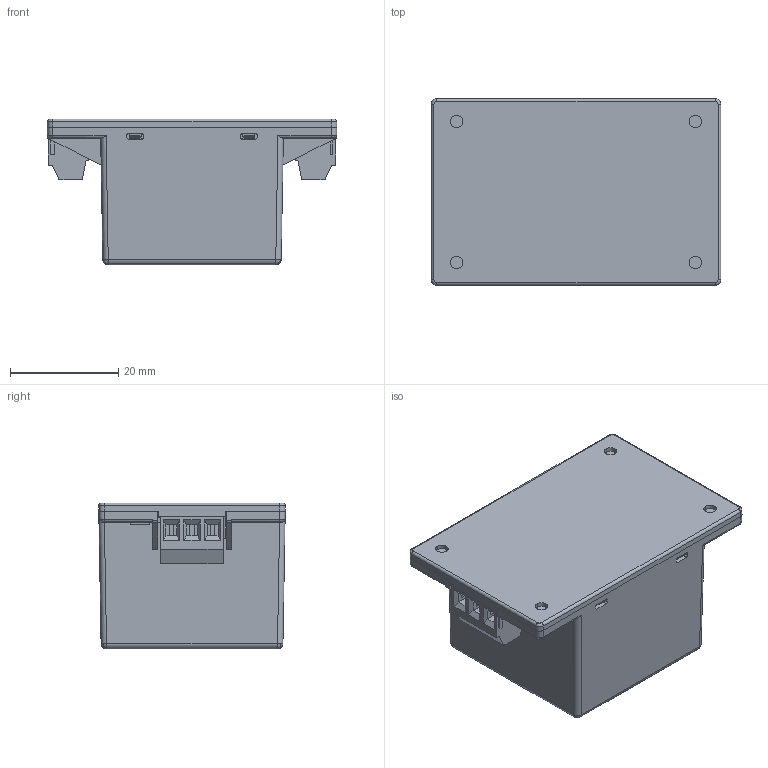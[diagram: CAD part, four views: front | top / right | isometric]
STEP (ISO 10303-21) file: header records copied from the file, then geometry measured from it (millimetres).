
FILE_DESCRIPTION (( 'STEP AP214' ), '1' );
FILE_NAME ('DTE06.STEP', '2020-03-19T13:09:10', ( '' ), ( '' ), 'SwSTEP 2.0', 'SolidWorks 2018', '' );
FILE_SCHEMA (( 'AUTOMOTIVE_DESIGN' ));
Length unit declared in the file: inch
Products named in the file (4): DTE06 BASE; 3 Pin Connector; DTE06 CASE; DTE06
Assembly tree (4 placements, depth 2):
  DTE06
    DTE06 CASE
    DTE06 BASE
    3 Pin Connector  x2
Bounding box: 53.4 x 34.4 x 26.9 mm (x, y, z)
Volume: 5536.1 mm3; surface area: 13130 mm2
Topology: 3 solids, 4 shells, 616 faces, 1658 edges, 1076 vertices
Faces by surface type: plane 449, cylinder 109, bspline 50, cone 4, torus 4
Entity records: 21333 total; most frequent: CARTESIAN_POINT 3582, ORIENTED_EDGE 2530, DIRECTION 2147, EDGE_CURVE 1269, LINE 953, VECTOR 953, VERTEX_POINT 830, AXIS2_PLACEMENT_3D 597
